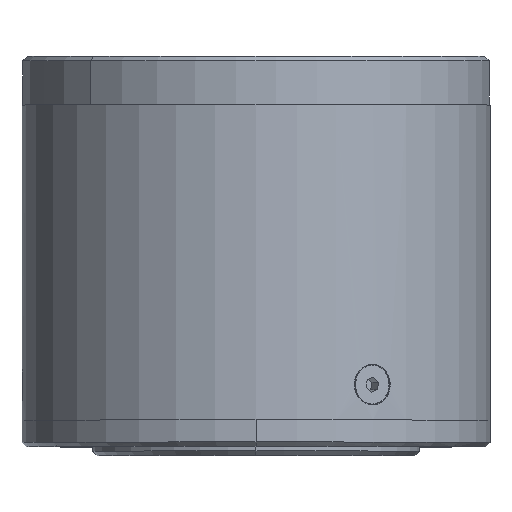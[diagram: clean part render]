
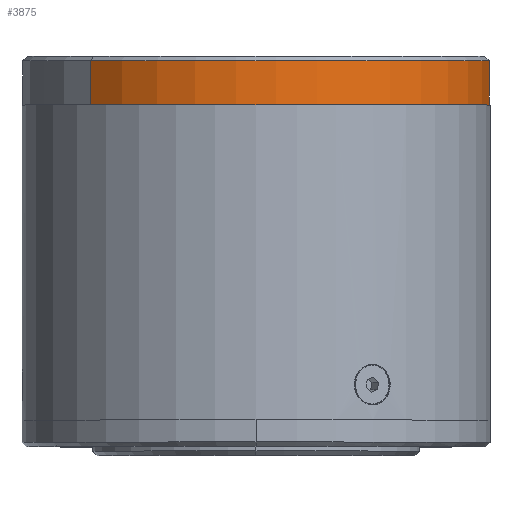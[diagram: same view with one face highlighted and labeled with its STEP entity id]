
A CAD part, top view. The second image highlights one B-rep face of the part: STEP entity #3875.
In plain terms, the highlighted cylindrical face has radius 26.5 mm (diameter 53 mm), a partial arc.
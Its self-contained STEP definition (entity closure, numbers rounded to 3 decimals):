
#34 = EDGE_CURVE ( 'NONE', #11649, #10684, #3766, .T. ) ;
#129 = FACE_OUTER_BOUND ( 'NONE', #10324, .T. ) ;
#480 = EDGE_CURVE ( 'NONE', #13592, #10684, #15268, .T. ) ;
#645 = AXIS2_PLACEMENT_3D ( 'NONE', #10224, #5331, #1485 ) ;
#1215 = ORIENTED_EDGE ( 'NONE', *, *, #34, .F. ) ;
#1248 = DIRECTION ( 'NONE',  ( 0., -1., 0. ) ) ;
#1454 = ORIENTED_EDGE ( 'NONE', *, *, #7861, .F. ) ;
#1485 = DIRECTION ( 'NONE',  ( 0.707, 0., -0.707 ) ) ;
#2882 = VECTOR ( 'NONE', #14626, 1000. ) ;
#3766 = CIRCLE ( 'NONE', #10878, 26.5 ) ;
#3875 = ADVANCED_FACE ( 'NONE', ( #129 ), #9280, .T. ) ;
#3878 = CARTESIAN_POINT ( 'NONE',  ( 18.738, 32.2, -18.738 ) ) ;
#5331 = DIRECTION ( 'NONE',  ( 0., -1., 0. ) ) ;
#5419 = CARTESIAN_POINT ( 'NONE',  ( 0., 27.2, 0. ) ) ;
#5927 = ORIENTED_EDGE ( 'NONE', *, *, #9370, .T. ) ;
#6094 = DIRECTION ( 'NONE',  ( 0., -1., 0. ) ) ;
#6555 = VECTOR ( 'NONE', #6094, 1000. ) ;
#7861 = EDGE_CURVE ( 'NONE', #12705, #11649, #12204, .T. ) ;
#8920 = CARTESIAN_POINT ( 'NONE',  ( -18.738, 31.7, 18.738 ) ) ;
#9195 = CARTESIAN_POINT ( 'NONE',  ( 0., 32.2, 0. ) ) ;
#9280 = CYLINDRICAL_SURFACE ( 'NONE', #645, 26.5 ) ;
#9370 = EDGE_CURVE ( 'NONE', #12705, #13592, #10350, .T. ) ;
#9465 = CARTESIAN_POINT ( 'NONE',  ( 18.738, 31.7, -18.738 ) ) ;
#10224 = CARTESIAN_POINT ( 'NONE',  ( 0., 31.7, 0. ) ) ;
#10324 = EDGE_LOOP ( 'NONE', ( #5927, #10440, #1215, #1454 ) ) ;
#10350 = CIRCLE ( 'NONE', #16574, 26.5 ) ;
#10440 = ORIENTED_EDGE ( 'NONE', *, *, #480, .T. ) ;
#10684 = VERTEX_POINT ( 'NONE', #15073 ) ;
#10878 = AXIS2_PLACEMENT_3D ( 'NONE', #5419, #1248, #13204 ) ;
#11279 = CARTESIAN_POINT ( 'NONE',  ( 18.738, 27.2, -18.738 ) ) ;
#11649 = VERTEX_POINT ( 'NONE', #11279 ) ;
#12204 = LINE ( 'NONE', #9465, #2882 ) ;
#12705 = VERTEX_POINT ( 'NONE', #3878 ) ;
#13204 = DIRECTION ( 'NONE',  ( 0.707, 0., -0.707 ) ) ;
#13329 = CARTESIAN_POINT ( 'NONE',  ( -18.738, 32.2, 18.738 ) ) ;
#13440 = DIRECTION ( 'NONE',  ( -0.707, 0., 0.707 ) ) ;
#13592 = VERTEX_POINT ( 'NONE', #13329 ) ;
#14626 = DIRECTION ( 'NONE',  ( 0., -1., 0. ) ) ;
#15073 = CARTESIAN_POINT ( 'NONE',  ( -18.738, 27.2, 18.738 ) ) ;
#15268 = LINE ( 'NONE', #8920, #6555 ) ;
#15968 = DIRECTION ( 'NONE',  ( 0., -1., 0. ) ) ;
#16574 = AXIS2_PLACEMENT_3D ( 'NONE', #9195, #15968, #13440 ) ;
